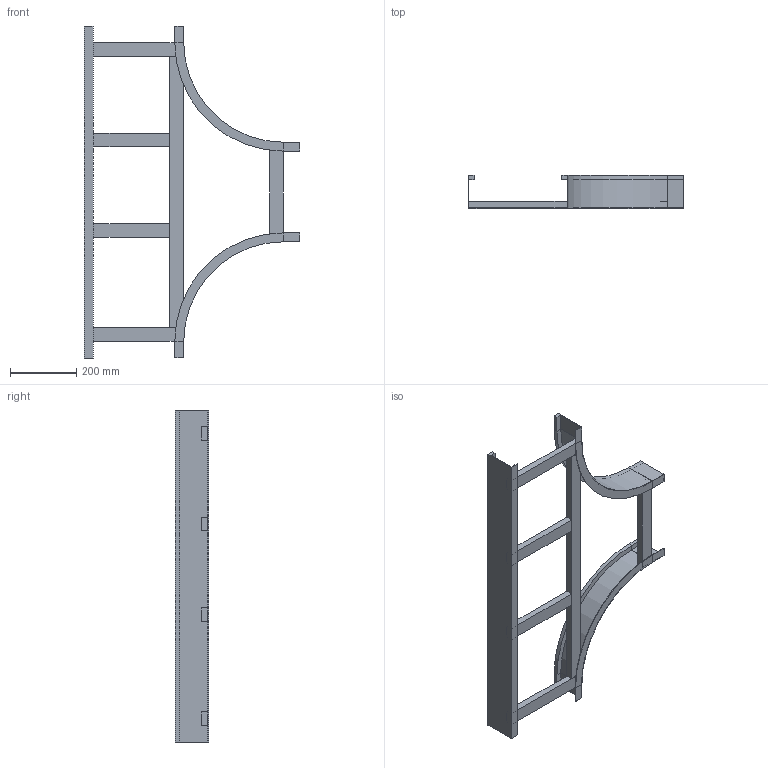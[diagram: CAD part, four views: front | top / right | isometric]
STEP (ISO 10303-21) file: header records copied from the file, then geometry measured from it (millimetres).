
FILE_DESCRIPTION (( 'STEP AP214' ), '1' );
FILE_NAME ('B2_15B3D300.step', '2025-02-21T15:50:07', ( '' ), ( '' ), 'SwSTEP 2.0', 'SolidWorks 2023', '' );
FILE_SCHEMA (( 'AUTOMOTIVE_DESIGN' ));
Length unit declared in the file: millimetre
Products named in the file (6): TRAVERSINO_INTERMEDIO_R300+300; B2_LONGH.RETT_H100_R300+300; TRAVERSINO_300; B2_LONGH.INTERNO 90°_H100_R300; B2_15B3D300; B2_TRAVERSINO_LONG._R300+300
Assembly tree (9 placements, depth 2):
  B2_15B3D300
    B2_LONGH.INTERNO 90°_H100_R300  x2
    B2_LONGH.RETT_H100_R300+300
    TRAVERSINO_300  x3
    B2_TRAVERSINO_LONG._R300+300
    TRAVERSINO_INTERMEDIO_R300+300  x2
Bounding box: 650 x 100 x 1000 mm (x, y, z)
Volume: 2752493 mm3; surface area: 898182.8 mm2
Topology: 9 solids, 9 shells, 98 faces, 208 edges, 128 vertices
Faces by surface type: plane 90, cylinder 8
Entity records: 1639 total; most frequent: DIRECTION 256, CARTESIAN_POINT 254, ORIENTED_EDGE 232, EDGE_CURVE 116, LINE 108, VECTOR 108, AXIS2_PLACEMENT_3D 74, VERTEX_POINT 72
